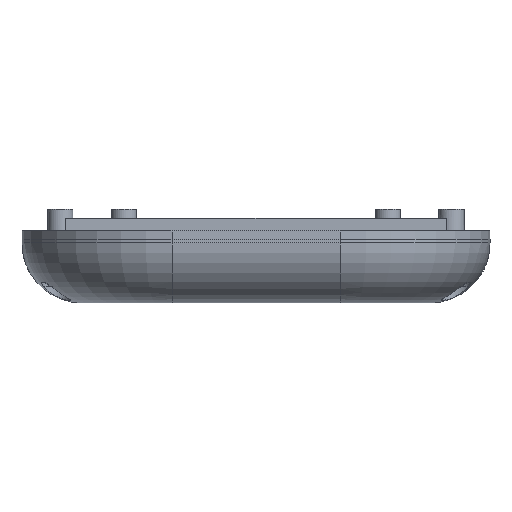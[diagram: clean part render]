
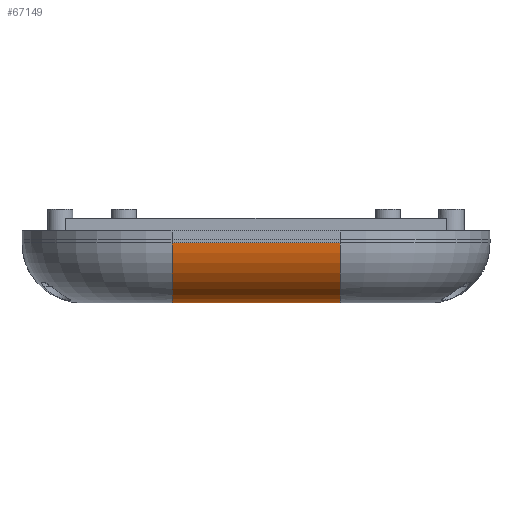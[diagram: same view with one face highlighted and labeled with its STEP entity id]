
A CAD part, front view. The second image highlights one B-rep face of the part: STEP entity #67149.
In plain terms, the highlighted cylindrical face has radius 10 mm (diameter 20 mm), a partial arc.
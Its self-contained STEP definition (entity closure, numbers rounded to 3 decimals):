
#29021 = TOROIDAL_SURFACE('',#29022,15.,10.);
#29022 = AXIS2_PLACEMENT_3D('',#29023,#29024,#29025);
#29023 = CARTESIAN_POINT('',(14.,-50.,-14.));
#29024 = DIRECTION('',(0.,0.,-1.));
#29025 = DIRECTION('',(-1.,0.,0.));
#29049 = PLANE('',#29050);
#29050 = AXIS2_PLACEMENT_3D('',#29051,#29052,#29053);
#29051 = CARTESIAN_POINT('',(0.,0.,-24.));
#29052 = DIRECTION('',(0.,0.,-1.));
#29053 = DIRECTION('',(-1.,0.,0.));
#29992 = TOROIDAL_SURFACE('',#29993,15.,10.);
#29993 = AXIS2_PLACEMENT_3D('',#29994,#29995,#29996);
#29994 = CARTESIAN_POINT('',(-14.,-50.,-14.));
#29995 = DIRECTION('',(0.,0.,-1.));
#29996 = DIRECTION('',(-1.,0.,0.));
#51361 = EDGE_CURVE('',#51362,#51364,#51366,.T.);
#51362 = VERTEX_POINT('',#51363);
#51363 = CARTESIAN_POINT('',(14.,-75.,-14.));
#51364 = VERTEX_POINT('',#51365);
#51365 = CARTESIAN_POINT('',(14.,-65.,-24.));
#51366 = SURFACE_CURVE('',#51367,(#51372,#51379),.PCURVE_S1.);
#51367 = CIRCLE('',#51368,10.);
#51368 = AXIS2_PLACEMENT_3D('',#51369,#51370,#51371);
#51369 = CARTESIAN_POINT('',(14.,-65.,-14.));
#51370 = DIRECTION('',(1.,0.,0.));
#51371 = DIRECTION('',(0.,-1.,0.));
#51372 = PCURVE('',#29021,#51373);
#51373 = DEFINITIONAL_REPRESENTATION('',(#51374),#51378);
#51374 = LINE('',#51375,#51376);
#51375 = CARTESIAN_POINT('',(4.712,0.));
#51376 = VECTOR('',#51377,1.);
#51377 = DIRECTION('',(0.,1.));
#51378 = ( GEOMETRIC_REPRESENTATION_CONTEXT(2) 
PARAMETRIC_REPRESENTATION_CONTEXT() REPRESENTATION_CONTEXT('2D SPACE',''
  ) );
#51379 = PCURVE('',#51380,#51385);
#51380 = CYLINDRICAL_SURFACE('',#51381,10.);
#51381 = AXIS2_PLACEMENT_3D('',#51382,#51383,#51384);
#51382 = CARTESIAN_POINT('',(7.,-65.,-14.));
#51383 = DIRECTION('',(-1.,0.,0.));
#51384 = DIRECTION('',(-0.,-0.707,-0.707));
#51385 = DEFINITIONAL_REPRESENTATION('',(#51386),#51390);
#51386 = LINE('',#51387,#51388);
#51387 = CARTESIAN_POINT('',(0.785,-7.));
#51388 = VECTOR('',#51389,1.);
#51389 = DIRECTION('',(-1.,0.));
#51390 = ( GEOMETRIC_REPRESENTATION_CONTEXT(2) 
PARAMETRIC_REPRESENTATION_CONTEXT() REPRESENTATION_CONTEXT('2D SPACE',''
  ) );
#52158 = EDGE_CURVE('',#52159,#51364,#52161,.T.);
#52159 = VERTEX_POINT('',#52160);
#52160 = CARTESIAN_POINT('',(-14.,-65.,-24.));
#52161 = SURFACE_CURVE('',#52162,(#52166,#52173),.PCURVE_S1.);
#52162 = LINE('',#52163,#52164);
#52163 = CARTESIAN_POINT('',(7.,-65.,-24.));
#52164 = VECTOR('',#52165,1.);
#52165 = DIRECTION('',(1.,0.,0.));
#52166 = PCURVE('',#29049,#52167);
#52167 = DEFINITIONAL_REPRESENTATION('',(#52168),#52172);
#52168 = LINE('',#52169,#52170);
#52169 = CARTESIAN_POINT('',(-7.,-65.));
#52170 = VECTOR('',#52171,1.);
#52171 = DIRECTION('',(-1.,0.));
#52172 = ( GEOMETRIC_REPRESENTATION_CONTEXT(2) 
PARAMETRIC_REPRESENTATION_CONTEXT() REPRESENTATION_CONTEXT('2D SPACE',''
  ) );
#52173 = PCURVE('',#51380,#52174);
#52174 = DEFINITIONAL_REPRESENTATION('',(#52175),#52179);
#52175 = LINE('',#52176,#52177);
#52176 = CARTESIAN_POINT('',(-0.785,0.));
#52177 = VECTOR('',#52178,1.);
#52178 = DIRECTION('',(0.,-1.));
#52179 = ( GEOMETRIC_REPRESENTATION_CONTEXT(2) 
PARAMETRIC_REPRESENTATION_CONTEXT() REPRESENTATION_CONTEXT('2D SPACE',''
  ) );
#55199 = EDGE_CURVE('',#55200,#52159,#55202,.T.);
#55200 = VERTEX_POINT('',#55201);
#55201 = CARTESIAN_POINT('',(-14.,-75.,-14.));
#55202 = SURFACE_CURVE('',#55203,(#55208,#55215),.PCURVE_S1.);
#55203 = CIRCLE('',#55204,10.);
#55204 = AXIS2_PLACEMENT_3D('',#55205,#55206,#55207);
#55205 = CARTESIAN_POINT('',(-14.,-65.,-14.));
#55206 = DIRECTION('',(1.,0.,0.));
#55207 = DIRECTION('',(0.,-1.,0.));
#55208 = PCURVE('',#29992,#55209);
#55209 = DEFINITIONAL_REPRESENTATION('',(#55210),#55214);
#55210 = LINE('',#55211,#55212);
#55211 = CARTESIAN_POINT('',(4.712,0.));
#55212 = VECTOR('',#55213,1.);
#55213 = DIRECTION('',(0.,1.));
#55214 = ( GEOMETRIC_REPRESENTATION_CONTEXT(2) 
PARAMETRIC_REPRESENTATION_CONTEXT() REPRESENTATION_CONTEXT('2D SPACE',''
  ) );
#55215 = PCURVE('',#51380,#55216);
#55216 = DEFINITIONAL_REPRESENTATION('',(#55217),#55221);
#55217 = LINE('',#55218,#55219);
#55218 = CARTESIAN_POINT('',(0.785,21.));
#55219 = VECTOR('',#55220,1.);
#55220 = DIRECTION('',(-1.,0.));
#55221 = ( GEOMETRIC_REPRESENTATION_CONTEXT(2) 
PARAMETRIC_REPRESENTATION_CONTEXT() REPRESENTATION_CONTEXT('2D SPACE',''
  ) );
#67136 = PLANE('',#67137);
#67137 = AXIS2_PLACEMENT_3D('',#67138,#67139,#67140);
#67138 = CARTESIAN_POINT('',(14.,-75.,-12.));
#67139 = DIRECTION('',(0.,-1.,0.));
#67140 = DIRECTION('',(-1.,0.,0.));
#67149 = ADVANCED_FACE('',(#67150),#51380,.T.);
#67150 = FACE_BOUND('',#67151,.T.);
#67151 = EDGE_LOOP('',(#67152,#67153,#67154,#67155));
#67152 = ORIENTED_EDGE('',*,*,#55199,.T.);
#67153 = ORIENTED_EDGE('',*,*,#52158,.T.);
#67154 = ORIENTED_EDGE('',*,*,#51361,.F.);
#67155 = ORIENTED_EDGE('',*,*,#67156,.T.);
#67156 = EDGE_CURVE('',#51362,#55200,#67157,.T.);
#67157 = SURFACE_CURVE('',#67158,(#67162,#67169),.PCURVE_S1.);
#67158 = LINE('',#67159,#67160);
#67159 = CARTESIAN_POINT('',(7.,-75.,-14.));
#67160 = VECTOR('',#67161,1.);
#67161 = DIRECTION('',(-1.,0.,0.));
#67162 = PCURVE('',#51380,#67163);
#67163 = DEFINITIONAL_REPRESENTATION('',(#67164),#67168);
#67164 = LINE('',#67165,#67166);
#67165 = CARTESIAN_POINT('',(0.785,0.));
#67166 = VECTOR('',#67167,1.);
#67167 = DIRECTION('',(0.,1.));
#67168 = ( GEOMETRIC_REPRESENTATION_CONTEXT(2) 
PARAMETRIC_REPRESENTATION_CONTEXT() REPRESENTATION_CONTEXT('2D SPACE',''
  ) );
#67169 = PCURVE('',#67136,#67170);
#67170 = DEFINITIONAL_REPRESENTATION('',(#67171),#67175);
#67171 = LINE('',#67172,#67173);
#67172 = CARTESIAN_POINT('',(7.,2.));
#67173 = VECTOR('',#67174,1.);
#67174 = DIRECTION('',(1.,0.));
#67175 = ( GEOMETRIC_REPRESENTATION_CONTEXT(2) 
PARAMETRIC_REPRESENTATION_CONTEXT() REPRESENTATION_CONTEXT('2D SPACE',''
  ) );
